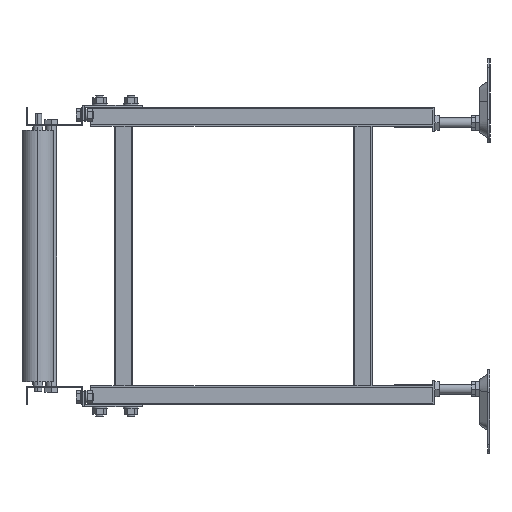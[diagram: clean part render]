
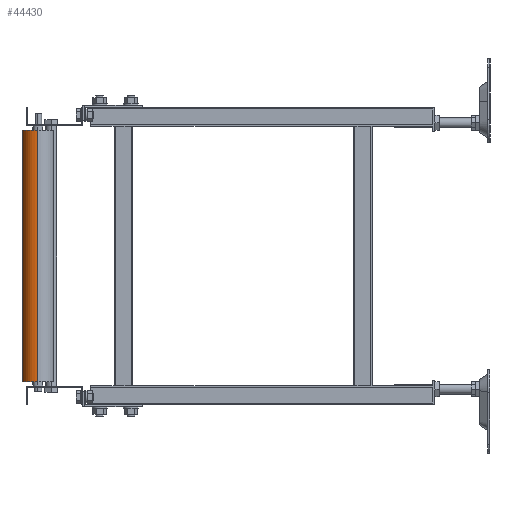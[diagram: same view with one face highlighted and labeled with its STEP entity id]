
A CAD part, left-side view. The second image highlights one B-rep face of the part: STEP entity #44430.
In plain terms, the highlighted cylindrical face has radius 25.4 mm (diameter 50.8 mm), a partial arc.
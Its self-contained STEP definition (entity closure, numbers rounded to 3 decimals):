
#416 = CARTESIAN_POINT ( 'NONE',  ( -2897., -25.4, -230.422 ) ) ;
#591 = FACE_OUTER_BOUND ( 'NONE', #2945, .T. ) ;
#1282 = DIRECTION ( 'NONE',  ( 0., 0., -1. ) ) ;
#1849 = ORIENTED_EDGE ( 'NONE', *, *, #30809, .T. ) ;
#2421 = CARTESIAN_POINT ( 'NONE',  ( -2897., -25.4, 201. ) ) ;
#2945 = EDGE_LOOP ( 'NONE', ( #41937, #1849, #28744, #5820 ) ) ;
#5098 = VECTOR ( 'NONE', #39127, 1000. ) ;
#5567 = DIRECTION ( 'NONE',  ( 0., 0., -1. ) ) ;
#5820 = ORIENTED_EDGE ( 'NONE', *, *, #10139, .F. ) ;
#6247 = VERTEX_POINT ( 'NONE', #57302 ) ;
#6440 = CARTESIAN_POINT ( 'NONE',  ( -2897., -25.4, -201. ) ) ;
#10139 = EDGE_CURVE ( 'NONE', #26651, #6247, #19246, .T. ) ;
#10359 = CARTESIAN_POINT ( 'NONE',  ( -2871.6, -25.4, 201. ) ) ;
#13377 = AXIS2_PLACEMENT_3D ( 'NONE', #6440, #1282, #53684 ) ;
#18103 = LINE ( 'NONE', #40554, #60522 ) ;
#18299 = DIRECTION ( 'NONE',  ( -1., 0., 0. ) ) ;
#19246 = LINE ( 'NONE', #33802, #5098 ) ;
#22040 = VERTEX_POINT ( 'NONE', #61574 ) ;
#26651 = VERTEX_POINT ( 'NONE', #58346 ) ;
#26808 = EDGE_CURVE ( 'NONE', #6247, #22040, #37753, .T. ) ;
#28744 = ORIENTED_EDGE ( 'NONE', *, *, #26808, .F. ) ;
#30809 = EDGE_CURVE ( 'NONE', #46627, #22040, #18103, .T. ) ;
#32894 = CYLINDRICAL_SURFACE ( 'NONE', #49473, 25.4 ) ;
#33802 = CARTESIAN_POINT ( 'NONE',  ( -2922.4, -25.4, -230.422 ) ) ;
#34696 = CIRCLE ( 'NONE', #44835, 25.4 ) ;
#37753 = CIRCLE ( 'NONE', #13377, 25.4 ) ;
#39127 = DIRECTION ( 'NONE',  ( 0., 0., -1. ) ) ;
#40554 = CARTESIAN_POINT ( 'NONE',  ( -2871.6, -25.4, -230.422 ) ) ;
#41937 = ORIENTED_EDGE ( 'NONE', *, *, #50922, .T. ) ;
#44430 = ADVANCED_FACE ( 'NONE', ( #591 ), #32894, .T. ) ;
#44835 = AXIS2_PLACEMENT_3D ( 'NONE', #2421, #60839, #18299 ) ;
#46627 = VERTEX_POINT ( 'NONE', #10359 ) ;
#49473 = AXIS2_PLACEMENT_3D ( 'NONE', #416, #5567, #52786 ) ;
#50922 = EDGE_CURVE ( 'NONE', #26651, #46627, #34696, .T. ) ;
#52786 = DIRECTION ( 'NONE',  ( -1., 0., 0. ) ) ;
#53684 = DIRECTION ( 'NONE',  ( -1., 0., 0. ) ) ;
#57302 = CARTESIAN_POINT ( 'NONE',  ( -2922.4, -25.4, -201. ) ) ;
#58346 = CARTESIAN_POINT ( 'NONE',  ( -2922.4, -25.4, 201. ) ) ;
#60522 = VECTOR ( 'NONE', #61251, 1000. ) ;
#60839 = DIRECTION ( 'NONE',  ( 0., 0., -1. ) ) ;
#61251 = DIRECTION ( 'NONE',  ( 0., 0., -1. ) ) ;
#61574 = CARTESIAN_POINT ( 'NONE',  ( -2871.6, -25.4, -201. ) ) ;
